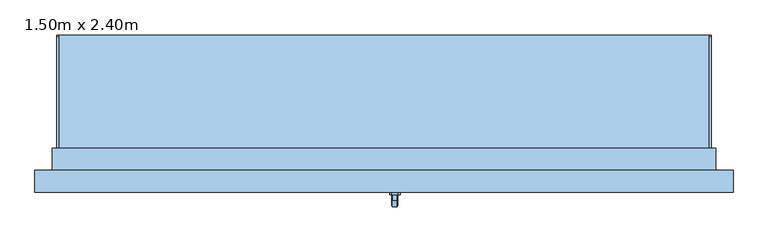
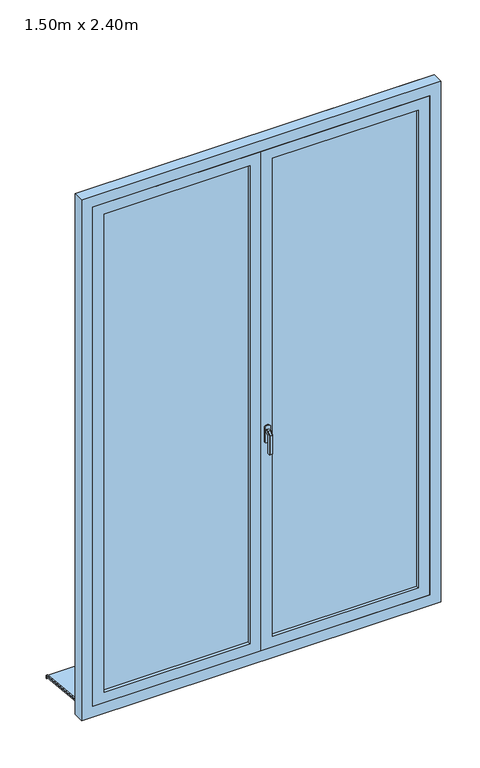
"""IFC4 building model written with IfcOpenShell, lengths in millimetres: window geometry, PF 2 Vantaux - Droits : 1.50m x 2.40m."""

from ifc_helpers import new_model, si_unit, point, frame, frame_2d, origin, place, context, project, spatial, polyline, circle_curve, trimmed, segment, composite_curve, outline, extrude, faceted_brep, source, transform, mapped, element, save


def window_1_50m_x_2_40m_e69f112c(model_context):
    return source(origin(), model_context, "Body", "SolidModel", [
        faceted_brep([(30.6460097, -181.0, 1122.0339292), (32.0339292, -181.0, 1120.6460097), (32.0339292, -181.0, 1109.3323012), (30.6676988, -181.0, 1107.9660708), (19.3323012, -181.0, 1107.9660708), (17.9660708, -181.0, 1109.3323012), (17.9660708, -181.0, 1120.6460097), (19.3539903, -181.0, 1122.0339292), (30.6460097, -193.9135489, 1122.0339292), (32.0339292, -193.3386538, 1120.6460097), (32.0339292, -206.6460097, 1107.3386538), (32.0339292, -206.6460097, 1020.0), (32.0339292, -195.3323012, 1020.0), (32.0339292, -195.3323012, 1102.6523623), (32.0339292, -188.6523623, 1109.3323012), (30.6676988, -188.0864511, 1107.9660708), (19.3323012, -188.0864511, 1107.9660708), (17.9660708, -188.6523623, 1109.3323012), (17.9660708, -195.3323012, 1102.6523623), (17.9660708, -195.3323012, 1020.0), (17.9660708, -206.6460097, 1020.0), (17.9660708, -206.6460097, 1107.3386538), (17.9660708, -193.3386538, 1120.6460097), (19.3539903, -193.9135489, 1122.0339292), (30.6460097, -208.0339292, 1107.9135489), (30.6676988, -193.9660708, 1102.0864511), (19.3323012, -193.9660708, 1102.0864511), (19.3539903, -208.0339292, 1107.9135489), (30.6460097, -208.0339292, 1020.0), (19.3539903, -208.0339292, 1020.0), (19.3323012, -193.9660708, 1020.0), (30.6676988, -193.9660708, 1020.0)], [[[0, 1, 2, 3, 4, 5, 6, 7]], [[1, 0, 8, 9]], [[2, 1, 9, 10, 11, 12, 13, 14]], [[3, 2, 14, 15]], [[4, 3, 15, 16]], [[5, 4, 16, 17]], [[6, 5, 17, 18, 19, 20, 21, 22]], [[7, 6, 22, 23]], [[0, 7, 23, 8]], [[9, 8, 24, 10]], [[15, 14, 13, 25]], [[16, 15, 25, 26]], [[17, 16, 26, 18]], [[23, 22, 21, 27]], [[8, 23, 27, 24]], [[28, 29, 20, 19, 30, 31, 12, 11]], [[10, 24, 28, 11]], [[25, 13, 12, 31]], [[26, 25, 31, 30]], [[18, 26, 30, 19]], [[27, 21, 20, 29]], [[24, 27, 29, 28]]]),
        extrude(outline(polyline([(1140.0, 32.0), (1140.0, 18.0), (1135.0, 13.0), (1065.0, 13.0), (1060.0, 18.0), (1060.0, 32.0), (1065.0, 37.0), (1135.0, 37.0), (1140.0, 32.0)])), frame((0.0, -181.0, 0.0), z_axis=(0.0, 1.0, 0.0), x_axis=(0.0, 0.0, 1.0)), (0.0, 0.0, 1.0), 6.0),
        extrude(outline(polyline([(185.0288776, 10.8229907), (185.0288776, -0.2552118), (180.0288776, 0.2703094), (180.0288776, 6.0933001), (-95.0, 35.0), (-95.0, 50.0), (-90.0, 50.0), (-90.0, 39.7296906), (185.0288776, 10.8229907)])), frame((-750.0, 0.0, 0.0), z_axis=(1.0, 0.0, 0.0), x_axis=(0.0, 1.0, 0.0)), (0.0, 0.0, 1.0), 1500.0),
        extrude(outline(composite_curve([segment(polyline([(185.0288776, 10.8229907), (-90.0, 39.7296906), (-90.0, 44.757232), (181.4469915, 16.2270035)]), True, "CONTINUOUS"), segment(trimmed(circle_curve(frame_2d((181.0288776, 12.2489159)), 4.0), [point((181.4469915, 16.2270035))], [point((185.0288776, 12.2489159))], False, "CARTESIAN"), True, "CONTINUOUS"), segment(polyline([(185.0288776, 12.2489159), (185.0288776, 10.8229907)]), True, "CONTINUOUS")], self_intersect=False)), frame((-750.0, 0.0, 0.0), z_axis=(1.0, 0.0, 0.0), x_axis=(0.0, 1.0, 0.0)), (0.0, 0.0, 1.0), 5.0),
        extrude(outline(composite_curve([segment(polyline([(185.0288776, 10.8229907), (-90.0, 39.7296906), (-90.0, 44.757232), (181.4469915, 16.2270035)]), True, "CONTINUOUS"), segment(trimmed(circle_curve(frame_2d((181.0288776, 12.2489159)), 4.0), [point((181.4469915, 16.2270035))], [point((185.0288776, 12.2489159))], False, "CARTESIAN"), True, "CONTINUOUS"), segment(polyline([(185.0288776, 12.2489159), (185.0288776, 10.8229907)]), True, "CONTINUOUS")], self_intersect=False)), frame((745.0, 0.0, 0.0), z_axis=(1.0, 0.0, 0.0), x_axis=(0.0, 1.0, 0.0)), (0.0, 0.0, 1.0), 5.0),
        extrude(outline(polyline([(35.0, -760.0), (35.0, -750.0), (2435.0, -750.0), (2435.0, 750.0), (35.0, 750.0), (35.0, 760.0), (2445.0, 760.0), (2445.0, -760.0), (35.0, -760.0)])), frame((0.0, -125.0, 0.0), z_axis=(0.0, 1.0, 0.0), x_axis=(0.0, 0.0, 1.0)), (0.0, 0.0, 1.0), 50.0),
        faceted_brep([(-800.0, -175.0, 35.0), (-800.0, -125.0, 35.0), (-750.0, -125.0, 35.0), (-750.0, -95.0, 35.0), (750.0, -95.0, 35.0), (750.0, -125.0, 35.0), (800.0, -125.0, 35.0), (800.0, -175.0, 35.0), (-800.0, -175.0, 2485.0), (-800.0, -125.0, 2485.0), (800.0, -125.0, 2485.0), (750.0, -125.0, 74.3761425), (-750.0, -125.0, 74.3761425), (-735.0, -125.0, 2420.0), (-735.0, -125.0, 100.0), (735.0, -125.0, 100.0), (735.0, -125.0, 2420.0), (-750.0, -75.0, 60.9786829), (-750.0, -75.0, 45.0), (-750.0, -85.0, 45.0), (-750.0, -85.0, 50.0), (-750.0, -95.0, 50.0), (750.0, -95.0, 50.0), (750.0, -85.0, 50.0), (750.0, -85.0, 45.0), (750.0, -75.0, 45.0), (750.0, -75.0, 60.9786829), (800.0, -175.0, 2485.0), (750.0, -175.0, 2435.0), (750.0, -175.0, 85.0), (-750.0, -175.0, 85.0), (-750.0, -175.0, 2435.0), (-735.0, -135.0, 2420.0), (-735.0, -135.0, 100.0), (735.0, -135.0, 100.0), (735.0, -135.0, 2420.0), (750.0, -135.0, 2435.0), (-750.0, -135.0, 2435.0), (-750.0, -135.0, 85.0), (750.0, -135.0, 85.0)], [[[0, 1, 2, 3, 4, 5, 6, 7]], [[1, 0, 8, 9]], [[1, 9, 10, 6, 5, 11, 12, 2], [13, 14, 15, 16]], [[12, 17, 18, 19, 20, 21, 3, 2]], [[3, 21, 22, 4]], [[4, 22, 23, 24, 25, 26, 11, 5]], [[6, 10, 27, 7]], [[0, 7, 27, 8], [28, 29, 30, 31]], [[13, 32, 33, 14]], [[33, 34, 15, 14]], [[35, 16, 15, 34]], [[17, 12, 11, 26]], [[36, 37, 38, 39], [32, 35, 34, 33]], [[38, 37, 31, 30]], [[30, 29, 39, 38]], [[28, 36, 39, 29]], [[18, 17, 26, 25]], [[19, 18, 25, 24]], [[20, 19, 24, 23]], [[21, 20, 23, 22]], [[13, 16, 35, 32]], [[10, 9, 8, 27]], [[37, 36, 28, 31]]]),
        extrude(outline(polyline([(85.0, 750.0), (2435.0, 750.0), (2435.0, 0.0), (85.0, 0.0), (85.0, 750.0)]), holes=[polyline([(135.0, 50.0), (2385.0, 50.0), (2385.0, 700.0), (135.0, 700.0), (135.0, 50.0)])]), frame((0.0, -175.0, 0.0), z_axis=(0.0, 1.0, 0.0), x_axis=(0.0, 0.0, 1.0)), (0.0, 0.0, 1.0), 40.0),
        extrude(outline(polyline([(50.0, -149.0), (700.0, -149.0), (700.0, -161.0), (50.0, -161.0), (50.0, -149.0)])), frame((0.0, 0.0, 135.0), z_axis=(0.0, 0.0, 1.0), x_axis=(1.0, 0.0, 0.0)), (0.0, 0.0, 1.0), 2250.0),
        extrude(outline(polyline([(-700.0, -149.0), (-50.0, -149.0), (-50.0, -161.0), (-700.0, -161.0), (-700.0, -149.0)])), frame((0.0, 0.0, 135.0), z_axis=(0.0, 0.0, 1.0), x_axis=(1.0, 0.0, 0.0)), (0.0, 0.0, 1.0), 2250.0),
        extrude(outline(polyline([(85.0, 0.0), (2435.0, 0.0), (2435.0, -750.0), (85.0, -750.0), (85.0, 0.0)]), holes=[polyline([(135.0, -700.0), (2385.0, -700.0), (2385.0, -50.0), (135.0, -50.0), (135.0, -700.0)])]), frame((0.0, -175.0, 0.0), z_axis=(0.0, 1.0, 0.0), x_axis=(0.0, 0.0, 1.0)), (0.0, 0.0, 1.0), 40.0),
        extrude(outline(polyline([(20.0, -127.0), (20.0, -135.0), (-20.0, -135.0), (-20.0, -127.0), (20.0, -127.0)])), frame((0.0, 0.0, 100.0), z_axis=(0.0, 0.0, 1.0), x_axis=(1.0, 0.0, 0.0)), (0.0, 0.0, 1.0), 2320.0),
    ])


if __name__ == "__main__":
    model = new_model("IFC4")
    model_context = context("Model", 3, world=origin())
    ifc_project = project(units=[si_unit("LENGTHUNIT", "METRE", prefix="MILLI")], contexts=[model_context])
    site = spatial("IfcSite", under=ifc_project)
    building = spatial("IfcBuilding", under=site)
    placement = place(None, origin())
    window_1_50m_x_2_40m_shape = window_1_50m_x_2_40m_e69f112c(model_context)
    element("IfcWindow", 1, ObjectType="PF 2 Vantaux - Droits : 1.50m x 2.40m", at=placement, inside=building, context=model_context, shape_type="MappedRepresentation", body=[
        mapped(window_1_50m_x_2_40m_shape, transform((0.0, 0.0, 0.0), x_axis=(1.0, 0.0, 0.0), y_axis=(0.0, 1.0, 0.0), z_axis=(0.0, 0.0, 1.0))),
    ])
    save(model, "model.ifc")
